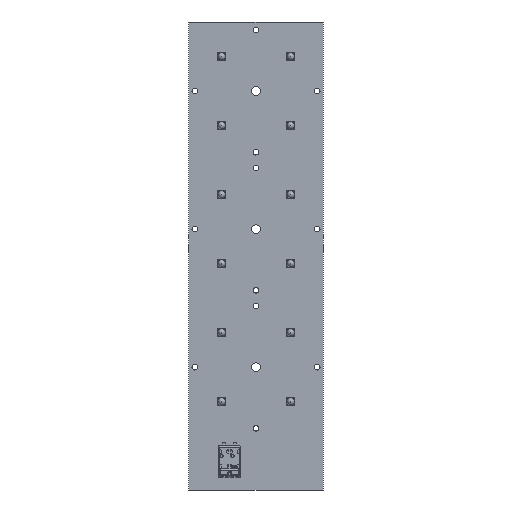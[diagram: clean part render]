
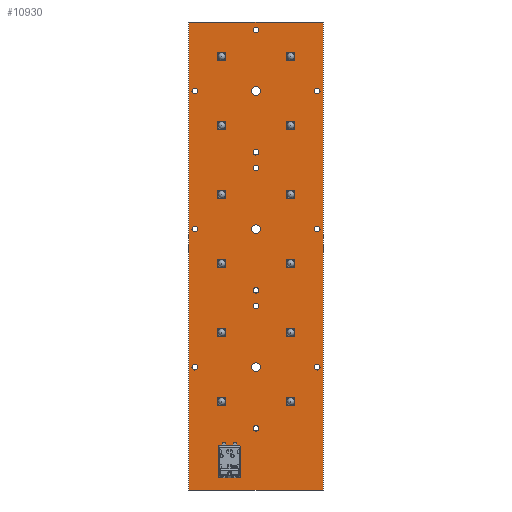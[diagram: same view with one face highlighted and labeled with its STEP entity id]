
A CAD part, front view. The second image highlights one B-rep face of the part: STEP entity #10930.
In plain terms, the highlighted planar face has unit normal (0, -1, 0).
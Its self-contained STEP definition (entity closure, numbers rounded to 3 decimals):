
#622=CIRCLE('',#11399,1.6);
#624=CIRCLE('',#11402,1.05);
#626=CIRCLE('',#11405,1.05);
#628=CIRCLE('',#11408,1.05);
#630=CIRCLE('',#11411,1.05);
#632=CIRCLE('',#11414,1.6);
#634=CIRCLE('',#11417,1.05);
#636=CIRCLE('',#11420,1.05);
#638=CIRCLE('',#11423,1.05);
#640=CIRCLE('',#11426,1.05);
#642=CIRCLE('',#11429,1.6);
#644=CIRCLE('',#11432,1.05);
#646=CIRCLE('',#11435,1.05);
#648=CIRCLE('',#11438,1.05);
#650=CIRCLE('',#11441,1.05);
#1022=ORIENTED_EDGE('',*,*,#3334,.T.);
#1023=ORIENTED_EDGE('',*,*,#3332,.T.);
#1024=ORIENTED_EDGE('',*,*,#3330,.T.);
#1025=ORIENTED_EDGE('',*,*,#3328,.T.);
#1026=ORIENTED_EDGE('',*,*,#3326,.T.);
#1027=ORIENTED_EDGE('',*,*,#3324,.T.);
#1028=ORIENTED_EDGE('',*,*,#3322,.T.);
#1029=ORIENTED_EDGE('',*,*,#3320,.T.);
#1030=ORIENTED_EDGE('',*,*,#3318,.T.);
#1031=ORIENTED_EDGE('',*,*,#3316,.T.);
#1032=ORIENTED_EDGE('',*,*,#3314,.T.);
#1033=ORIENTED_EDGE('',*,*,#3312,.T.);
#1034=ORIENTED_EDGE('',*,*,#3310,.T.);
#1035=ORIENTED_EDGE('',*,*,#3308,.T.);
#1036=ORIENTED_EDGE('',*,*,#3306,.T.);
#1037=ORIENTED_EDGE('',*,*,#3295,.T.);
#1038=ORIENTED_EDGE('',*,*,#3299,.T.);
#1039=ORIENTED_EDGE('',*,*,#3302,.T.);
#1040=ORIENTED_EDGE('',*,*,#3335,.T.);
#3295=EDGE_CURVE('',#4464,#4465,#5206,.T.);
#3299=EDGE_CURVE('',#4465,#4468,#5210,.T.);
#3302=EDGE_CURVE('',#4468,#4470,#5213,.T.);
#3306=EDGE_CURVE('',#4473,#4473,#622,.T.);
#3308=EDGE_CURVE('',#4475,#4475,#624,.T.);
#3310=EDGE_CURVE('',#4477,#4477,#626,.T.);
#3312=EDGE_CURVE('',#4479,#4479,#628,.T.);
#3314=EDGE_CURVE('',#4481,#4481,#630,.T.);
#3316=EDGE_CURVE('',#4483,#4483,#632,.T.);
#3318=EDGE_CURVE('',#4485,#4485,#634,.T.);
#3320=EDGE_CURVE('',#4487,#4487,#636,.T.);
#3322=EDGE_CURVE('',#4489,#4489,#638,.T.);
#3324=EDGE_CURVE('',#4491,#4491,#640,.T.);
#3326=EDGE_CURVE('',#4493,#4493,#642,.T.);
#3328=EDGE_CURVE('',#4495,#4495,#644,.T.);
#3330=EDGE_CURVE('',#4497,#4497,#646,.T.);
#3332=EDGE_CURVE('',#4499,#4499,#648,.T.);
#3334=EDGE_CURVE('',#4501,#4501,#650,.T.);
#3335=EDGE_CURVE('',#4470,#4464,#5216,.T.);
#4464=VERTEX_POINT('',#13955);
#4465=VERTEX_POINT('',#13956);
#4468=VERTEX_POINT('',#13964);
#4470=VERTEX_POINT('',#13970);
#4473=VERTEX_POINT('',#13978);
#4475=VERTEX_POINT('',#13983);
#4477=VERTEX_POINT('',#13988);
#4479=VERTEX_POINT('',#13993);
#4481=VERTEX_POINT('',#13998);
#4483=VERTEX_POINT('',#14003);
#4485=VERTEX_POINT('',#14008);
#4487=VERTEX_POINT('',#14013);
#4489=VERTEX_POINT('',#14018);
#4491=VERTEX_POINT('',#14023);
#4493=VERTEX_POINT('',#14028);
#4495=VERTEX_POINT('',#14033);
#4497=VERTEX_POINT('',#14038);
#4499=VERTEX_POINT('',#14043);
#4501=VERTEX_POINT('',#14048);
#5206=LINE('',#13954,#5782);
#5210=LINE('',#13963,#5786);
#5213=LINE('',#13969,#5789);
#5216=LINE('',#14050,#5792);
#5782=VECTOR('',#12058,1000.);
#5786=VECTOR('',#12064,1000.);
#5789=VECTOR('',#12069,1000.);
#5792=VECTOR('',#12164,1000.);
#6408=EDGE_LOOP('',(#1022));
#6409=EDGE_LOOP('',(#1023));
#6410=EDGE_LOOP('',(#1024));
#6411=EDGE_LOOP('',(#1025));
#6412=EDGE_LOOP('',(#1026));
#6413=EDGE_LOOP('',(#1027));
#6414=EDGE_LOOP('',(#1028));
#6415=EDGE_LOOP('',(#1029));
#6416=EDGE_LOOP('',(#1030));
#6417=EDGE_LOOP('',(#1031));
#6418=EDGE_LOOP('',(#1032));
#6419=EDGE_LOOP('',(#1033));
#6420=EDGE_LOOP('',(#1034));
#6421=EDGE_LOOP('',(#1035));
#6422=EDGE_LOOP('',(#1036));
#6423=EDGE_LOOP('',(#1037,#1038,#1039,#1040));
#6942=FACE_BOUND('',#6408,.T.);
#6943=FACE_BOUND('',#6409,.T.);
#6944=FACE_BOUND('',#6410,.T.);
#6945=FACE_BOUND('',#6411,.T.);
#6946=FACE_BOUND('',#6412,.T.);
#6947=FACE_BOUND('',#6413,.T.);
#6948=FACE_BOUND('',#6414,.T.);
#6949=FACE_BOUND('',#6415,.T.);
#6950=FACE_BOUND('',#6416,.T.);
#6951=FACE_BOUND('',#6417,.T.);
#6952=FACE_BOUND('',#6418,.T.);
#6953=FACE_BOUND('',#6419,.T.);
#6954=FACE_BOUND('',#6420,.T.);
#6955=FACE_BOUND('',#6421,.T.);
#6956=FACE_BOUND('',#6422,.T.);
#6957=FACE_BOUND('',#6423,.T.);
#7432=PLANE('',#11444);
#10930=ADVANCED_FACE('',(#6942,#6943,#6944,#6945,#6946,#6947,#6948,#6949,
#6950,#6951,#6952,#6953,#6954,#6955,#6956,#6957),#7432,.T.);
#11399=AXIS2_PLACEMENT_3D('',#13977,#12076,#12077);
#11402=AXIS2_PLACEMENT_3D('',#13982,#12082,#12083);
#11405=AXIS2_PLACEMENT_3D('',#13987,#12088,#12089);
#11408=AXIS2_PLACEMENT_3D('',#13992,#12094,#12095);
#11411=AXIS2_PLACEMENT_3D('',#13997,#12100,#12101);
#11414=AXIS2_PLACEMENT_3D('',#14002,#12106,#12107);
#11417=AXIS2_PLACEMENT_3D('',#14007,#12112,#12113);
#11420=AXIS2_PLACEMENT_3D('',#14012,#12118,#12119);
#11423=AXIS2_PLACEMENT_3D('',#14017,#12124,#12125);
#11426=AXIS2_PLACEMENT_3D('',#14022,#12130,#12131);
#11429=AXIS2_PLACEMENT_3D('',#14027,#12136,#12137);
#11432=AXIS2_PLACEMENT_3D('',#14032,#12142,#12143);
#11435=AXIS2_PLACEMENT_3D('',#14037,#12148,#12149);
#11438=AXIS2_PLACEMENT_3D('',#14042,#12154,#12155);
#11441=AXIS2_PLACEMENT_3D('',#14047,#12160,#12161);
#11444=AXIS2_PLACEMENT_3D('',#14053,#12168,#12169);
#12058=DIRECTION('',(-1.,0.,0.));
#12064=DIRECTION('',(0.,0.,-1.));
#12069=DIRECTION('',(1.,0.,0.));
#12076=DIRECTION('',(0.,1.,0.));
#12077=DIRECTION('',(1.,0.,0.));
#12082=DIRECTION('',(0.,1.,0.));
#12083=DIRECTION('',(1.,0.,0.));
#12088=DIRECTION('',(0.,1.,0.));
#12089=DIRECTION('',(1.,0.,0.));
#12094=DIRECTION('',(0.,1.,0.));
#12095=DIRECTION('',(1.,0.,0.));
#12100=DIRECTION('',(0.,1.,0.));
#12101=DIRECTION('',(1.,0.,0.));
#12106=DIRECTION('',(0.,1.,0.));
#12107=DIRECTION('',(1.,0.,0.));
#12112=DIRECTION('',(0.,1.,0.));
#12113=DIRECTION('',(1.,0.,0.));
#12118=DIRECTION('',(0.,1.,0.));
#12119=DIRECTION('',(1.,0.,0.));
#12124=DIRECTION('',(0.,1.,0.));
#12125=DIRECTION('',(1.,0.,0.));
#12130=DIRECTION('',(0.,1.,0.));
#12131=DIRECTION('',(1.,0.,0.));
#12136=DIRECTION('',(0.,1.,0.));
#12137=DIRECTION('',(1.,0.,0.));
#12142=DIRECTION('',(0.,1.,0.));
#12143=DIRECTION('',(1.,0.,0.));
#12148=DIRECTION('',(0.,1.,0.));
#12149=DIRECTION('',(1.,0.,0.));
#12154=DIRECTION('',(0.,1.,0.));
#12155=DIRECTION('',(1.,0.,0.));
#12160=DIRECTION('',(0.,1.,0.));
#12161=DIRECTION('',(1.,0.,0.));
#12164=DIRECTION('',(0.,0.,1.));
#12168=DIRECTION('',(0.,-1.,0.));
#12169=DIRECTION('',(0.,0.,-1.));
#13954=CARTESIAN_POINT('',(-24.75,0.,86.1));
#13955=CARTESIAN_POINT('',(24.75,0.,86.1));
#13956=CARTESIAN_POINT('',(-24.75,0.,86.1));
#13963=CARTESIAN_POINT('',(-24.75,0.,86.1));
#13964=CARTESIAN_POINT('',(-24.75,0.,-86.1));
#13969=CARTESIAN_POINT('',(-24.75,0.,-86.1));
#13970=CARTESIAN_POINT('',(24.75,0.,-86.1));
#13977=CARTESIAN_POINT('',(0.,0.,60.7));
#13978=CARTESIAN_POINT('',(1.6,0.,60.7));
#13982=CARTESIAN_POINT('',(22.5,0.,60.7));
#13983=CARTESIAN_POINT('',(23.55,0.,60.7));
#13987=CARTESIAN_POINT('',(-22.5,0.,60.7));
#13988=CARTESIAN_POINT('',(-21.45,0.,60.7));
#13992=CARTESIAN_POINT('',(0.,0.,38.2));
#13993=CARTESIAN_POINT('',(1.05,0.,38.2));
#13997=CARTESIAN_POINT('',(0.,0.,83.2));
#13998=CARTESIAN_POINT('',(1.05,0.,83.2));
#14002=CARTESIAN_POINT('',(0.,0.,9.9));
#14003=CARTESIAN_POINT('',(1.6,0.,9.9));
#14007=CARTESIAN_POINT('',(22.5,0.,9.9));
#14008=CARTESIAN_POINT('',(23.55,0.,9.9));
#14012=CARTESIAN_POINT('',(-22.5,0.,9.9));
#14013=CARTESIAN_POINT('',(-21.45,0.,9.9));
#14017=CARTESIAN_POINT('',(0.,0.,-12.6));
#14018=CARTESIAN_POINT('',(1.05,0.,-12.6));
#14022=CARTESIAN_POINT('',(0.,0.,32.4));
#14023=CARTESIAN_POINT('',(1.05,0.,32.4));
#14027=CARTESIAN_POINT('',(0.,0.,-40.9));
#14028=CARTESIAN_POINT('',(1.6,0.,-40.9));
#14032=CARTESIAN_POINT('',(22.5,0.,-40.9));
#14033=CARTESIAN_POINT('',(23.55,0.,-40.9));
#14037=CARTESIAN_POINT('',(-22.5,0.,-40.9));
#14038=CARTESIAN_POINT('',(-21.45,0.,-40.9));
#14042=CARTESIAN_POINT('',(0.,0.,-63.4));
#14043=CARTESIAN_POINT('',(1.05,0.,-63.4));
#14047=CARTESIAN_POINT('',(0.,0.,-18.4));
#14048=CARTESIAN_POINT('',(1.05,0.,-18.4));
#14050=CARTESIAN_POINT('',(24.75,0.,-86.1));
#14053=CARTESIAN_POINT('',(0.,0.,0.));
